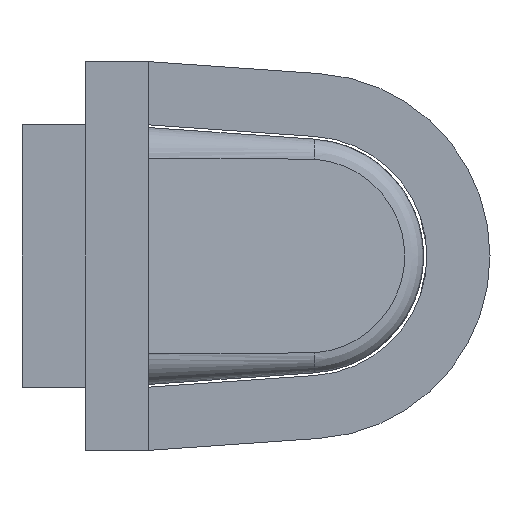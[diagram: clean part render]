
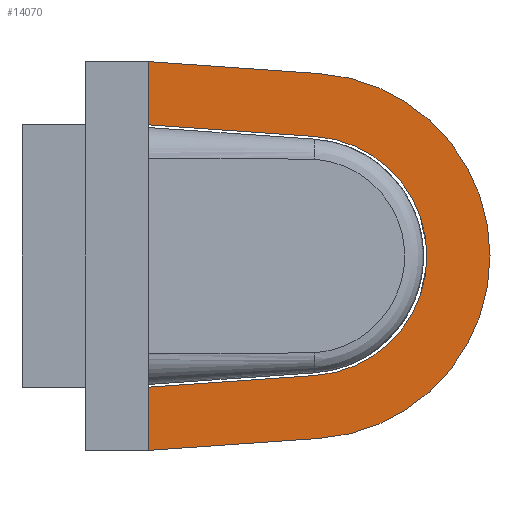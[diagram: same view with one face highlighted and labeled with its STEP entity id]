
A CAD part, left-side view. The second image highlights one B-rep face of the part: STEP entity #14070.
In plain terms, the highlighted planar face has unit normal (-1, 0, 0) as drawn and (0, 0, 1) by its records, which use the part's own axes.
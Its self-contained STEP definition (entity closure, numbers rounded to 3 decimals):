
#31 = LINE ( 'NONE', #12868, #6890 ) ;
#132 = DIRECTION ( 'NONE',  ( 1., 0., 0. ) ) ;
#157 = LINE ( 'NONE', #3625, #20220 ) ;
#940 = CARTESIAN_POINT ( 'NONE',  ( -18.901, 26.435, 5. ) ) ;
#2411 = DIRECTION ( 'NONE',  ( 0., 0., -1. ) ) ;
#2494 = ORIENTED_EDGE ( 'NONE', *, *, #11108, .T. ) ;
#2522 = VERTEX_POINT ( 'NONE', #4894 ) ;
#3025 = EDGE_CURVE ( 'NONE', #6750, #12627, #5573, .T. ) ;
#3625 = CARTESIAN_POINT ( 'NONE',  ( -30.75, 0., 5. ) ) ;
#3769 = CARTESIAN_POINT ( 'NONE',  ( 0., 25.114, 5. ) ) ;
#3873 = FACE_OUTER_BOUND ( 'NONE', #16338, .T. ) ;
#4198 = EDGE_CURVE ( 'NONE', #11279, #17916, #157, .T. ) ;
#4460 = LINE ( 'NONE', #13832, #6603 ) ;
#4894 = CARTESIAN_POINT ( 'NONE',  ( 18.901, 26.435, 5. ) ) ;
#5328 = ORIENTED_EDGE ( 'NONE', *, *, #12966, .T. ) ;
#5573 = LINE ( 'NONE', #12183, #6940 ) ;
#6603 = VECTOR ( 'NONE', #17416, 1000. ) ;
#6750 = VERTEX_POINT ( 'NONE', #11185 ) ;
#6783 = EDGE_CURVE ( 'NONE', #10204, #18231, #17933, .T. ) ;
#6890 = VECTOR ( 'NONE', #132, 1000. ) ;
#6911 = ORIENTED_EDGE ( 'NONE', *, *, #20454, .T. ) ;
#6940 = VECTOR ( 'NONE', #8619, 1000. ) ;
#7645 = DIRECTION ( 'NONE',  ( -1., 0., 0. ) ) ;
#7703 = VECTOR ( 'NONE', #20079, 1000. ) ;
#8176 = VERTEX_POINT ( 'NONE', #11969 ) ;
#8440 = CARTESIAN_POINT ( 'NONE',  ( 20.75, 0., 5. ) ) ;
#8619 = DIRECTION ( 'NONE',  ( 0.07, 0.998, 0. ) ) ;
#9927 = DIRECTION ( 'NONE',  ( 1., 0., 0. ) ) ;
#10204 = VERTEX_POINT ( 'NONE', #8440 ) ;
#10452 = CARTESIAN_POINT ( 'NONE',  ( -30.75, 0., 5. ) ) ;
#11108 = EDGE_CURVE ( 'NONE', #18231, #8176, #4460, .T. ) ;
#11185 = CARTESIAN_POINT ( 'NONE',  ( -20.75, 0., 5. ) ) ;
#11279 = VERTEX_POINT ( 'NONE', #19715 ) ;
#11852 = DIRECTION ( 'NONE',  ( -1., 0., 0. ) ) ;
#11969 = CARTESIAN_POINT ( 'NONE',  ( 28.853, 27.131, 5. ) ) ;
#12029 = AXIS2_PLACEMENT_3D ( 'NONE', #18722, #20205, #7645 ) ;
#12088 = CARTESIAN_POINT ( 'NONE',  ( 0., 25.114, 5. ) ) ;
#12183 = CARTESIAN_POINT ( 'NONE',  ( -20.75, 0., 5. ) ) ;
#12627 = VERTEX_POINT ( 'NONE', #940 ) ;
#12868 = CARTESIAN_POINT ( 'NONE',  ( -30.75, 0., 5. ) ) ;
#12923 = AXIS2_PLACEMENT_3D ( 'NONE', #12088, #17157, #15568 ) ;
#12966 = EDGE_CURVE ( 'NONE', #8176, #11279, #17773, .T. ) ;
#13637 = CARTESIAN_POINT ( 'NONE',  ( 18.901, 26.435, 5. ) ) ;
#13832 = CARTESIAN_POINT ( 'NONE',  ( 28.853, 27.131, 5. ) ) ;
#13934 = ORIENTED_EDGE ( 'NONE', *, *, #4198, .T. ) ;
#14070 = ADVANCED_FACE ( 'NONE', ( #3873 ), #14928, .F. ) ;
#14531 = ORIENTED_EDGE ( 'NONE', *, *, #3025, .T. ) ;
#14604 = EDGE_CURVE ( 'NONE', #2522, #10204, #15213, .T. ) ;
#14611 = CARTESIAN_POINT ( 'NONE',  ( 30.75, 0., 5. ) ) ;
#14888 = DIRECTION ( 'NONE',  ( -0.07, -0.998, 0. ) ) ;
#14898 = ORIENTED_EDGE ( 'NONE', *, *, #18453, .T. ) ;
#14928 = PLANE ( 'NONE',  #18106 ) ;
#15064 = ORIENTED_EDGE ( 'NONE', *, *, #14604, .T. ) ;
#15213 = LINE ( 'NONE', #13637, #7703 ) ;
#15568 = DIRECTION ( 'NONE',  ( -1., 0., 0. ) ) ;
#16338 = EDGE_LOOP ( 'NONE', ( #2494, #5328, #13934, #14898, #14531, #6911, #15064, #19693 ) ) ;
#17157 = DIRECTION ( 'NONE',  ( 0., 0., -1. ) ) ;
#17416 = DIRECTION ( 'NONE',  ( -0.07, 0.998, 0. ) ) ;
#17741 = CARTESIAN_POINT ( 'NONE',  ( 30.75, 0., 5. ) ) ;
#17773 = CIRCLE ( 'NONE', #12029, 28.923 ) ;
#17916 = VERTEX_POINT ( 'NONE', #10452 ) ;
#17933 = LINE ( 'NONE', #17741, #20670 ) ;
#18106 = AXIS2_PLACEMENT_3D ( 'NONE', #3769, #2411, #11852 ) ;
#18231 = VERTEX_POINT ( 'NONE', #14611 ) ;
#18308 = CIRCLE ( 'NONE', #12923, 18.948 ) ;
#18453 = EDGE_CURVE ( 'NONE', #17916, #6750, #31, .T. ) ;
#18722 = CARTESIAN_POINT ( 'NONE',  ( 0., 25.114, 5. ) ) ;
#19693 = ORIENTED_EDGE ( 'NONE', *, *, #6783, .T. ) ;
#19715 = CARTESIAN_POINT ( 'NONE',  ( -28.853, 27.131, 5. ) ) ;
#20079 = DIRECTION ( 'NONE',  ( 0.07, -0.998, 0. ) ) ;
#20205 = DIRECTION ( 'NONE',  ( 0., 0., 1. ) ) ;
#20220 = VECTOR ( 'NONE', #14888, 1000. ) ;
#20454 = EDGE_CURVE ( 'NONE', #12627, #2522, #18308, .T. ) ;
#20670 = VECTOR ( 'NONE', #9927, 1000. ) ;
